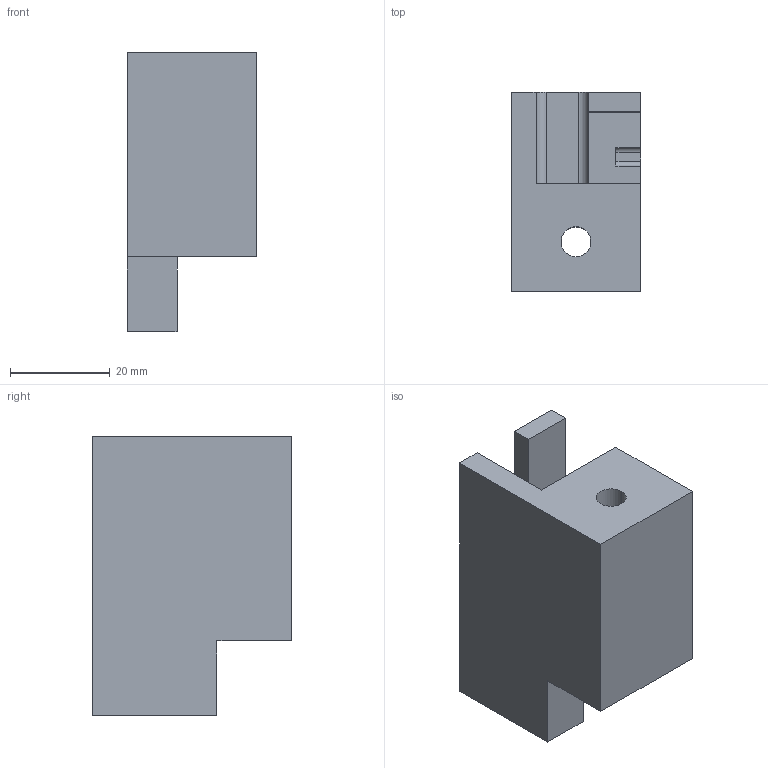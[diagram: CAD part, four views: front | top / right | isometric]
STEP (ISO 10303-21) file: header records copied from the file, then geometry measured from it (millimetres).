
FILE_DESCRIPTION(('CATIA V5 STEP Exchange'),'2;1');
FILE_NAME('G:\够快云库\系统集成开发部\1.部门成员\孙国\工装\手动插管\STP\V3\GZ-SDCG12_V3 2.0速降阀固定座.stp','2021-02-26T07:51:13+00:00',('none'),('none'),'CATIA Version 5 Release 20 GA (IN-10)','CATIA V5 STEP AP214','none');
FILE_SCHEMA(('AUTOMOTIVE_DESIGN { 1 0 10303 214 1 1 1 1 }'));
Length unit declared in the file: millimetre
Products named in the file (1): 阀体固定座
Bounding box: 26 x 40 x 56 mm (x, y, z)
Volume: 37051.6 mm3; surface area: 10280.3 mm2
Topology: 1 solids, 1 shells, 26 faces, 72 edges, 48 vertices
Faces by surface type: plane 20, cylinder 6
Entity records: 836 total; most frequent: CARTESIAN_POINT 153, ORIENTED_EDGE 144, DIRECTION 118, EDGE_CURVE 72, VECTOR 60, LINE 60, VERTEX_POINT 48, AXIS2_PLACEMENT_3D 35
